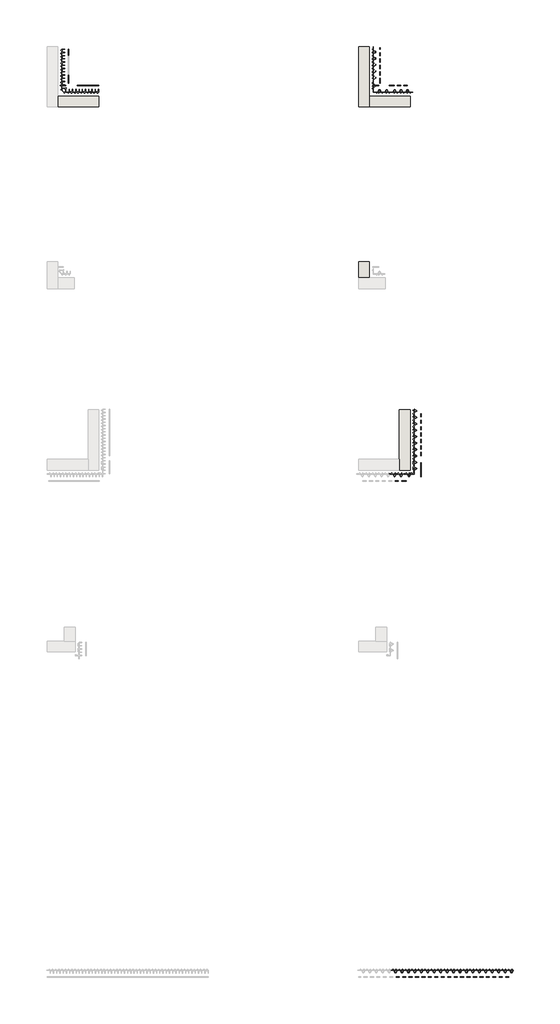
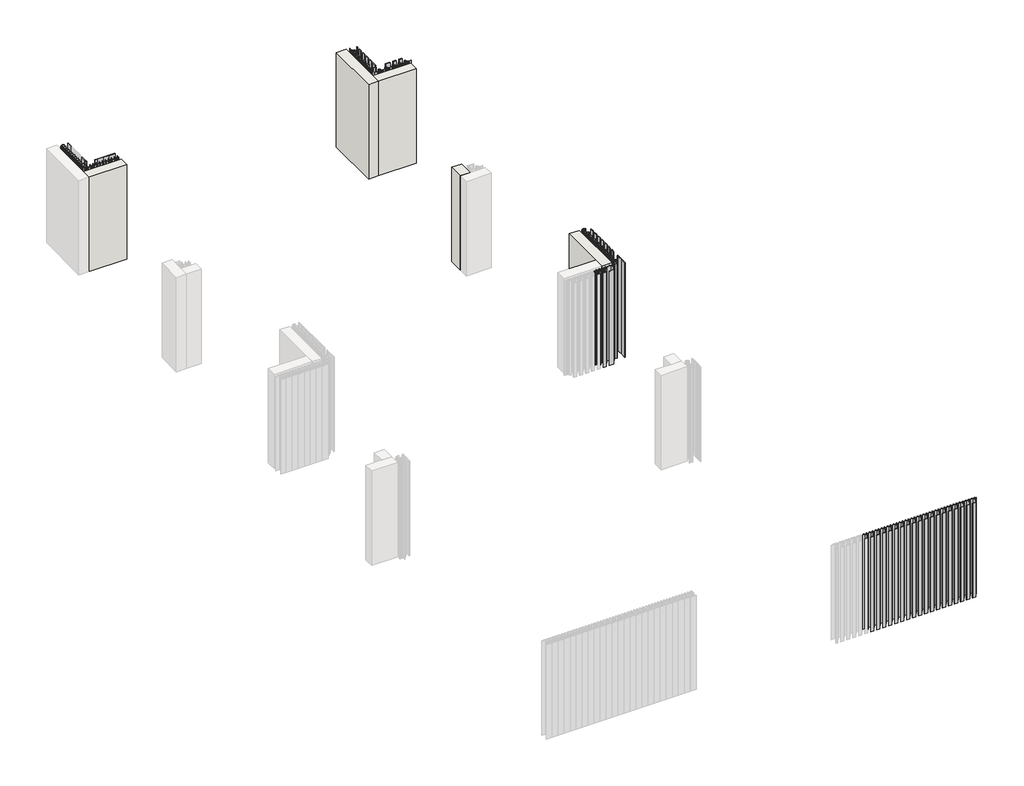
# One storey, part 5 of 5: 57 members, 50 plates, 5 walls.
"""IFC4 building model written with IfcOpenShell, lengths in millimetres."""

from ifc_helpers import new_model, si_unit, origin, origin_with_axes, place, context, project, spatial, polyline, outline, extrude, faceted_brep, transform, mapped, element, save
from components import rectangular_mullion_05be598c, rectangular_mullion_7167efe5, rectangular_mullion_7a3c55a6, rectangular_mullion_3bb5119e, rectangular_mullion_c17fce0e, rectangular_mullion_cac204a1, rectangular_mullion_4ed10c42, rectangular_mullion_8f83e6e3, rectangular_mullion_1797d992, rectangular_mullion_e1f336e5, rectangular_mullion_e9b3b9de, rectangular_mullion_e4d93e6c, rectangular_mullion_2a772050, rectangular_mullion_e46097ff, empty_system_panel_empty_1becab5c, empty_system_panel_empty_1ebb3388, empty_system_panel_empty_e98d4713, empty_system_panel_empty_5cad0f82, empty_system_panel_empty_5dcf6e88, empty_system_panel_empty_f535094f, empty_system_panel_empty_0988e1f0, empty_system_panel_empty_c051c962, empty_system_panel_empty_21c3a13d, empty_system_panel_empty_2f7d46bf, empty_system_panel_empty_e75d21e2, empty_system_panel_empty_5ee57205, empty_system_panel_empty_c6af10a3, empty_system_panel_empty_9846729f, empty_system_panel_empty_fabe9b0d, empty_system_panel_empty_092e5d7a, empty_system_panel_empty_2bdb7733, empty_system_panel_empty_8cb86d33, empty_system_panel_empty_02ad7564

model = new_model("IFC4")

# Units and contexts
model_context = context("Model", 3, world=origin())
ifc_project = project(units=[si_unit("LENGTHUNIT", "METRE", prefix="MILLI")], contexts=[model_context])

# Site, building, storey
site = spatial("IfcSite", under=ifc_project)
building = spatial("IfcBuilding", under=site)
storey = spatial("IfcBuildingStorey", under=building, Name="REN - Ground plan", Elevation=0.0)

# Members
placement = place(None, origin())
rectangular_mullion_shape = rectangular_mullion_05be598c(model_context)
element("IfcMember", 1, ObjectType="Rectangular Mullion : Renson_Linarte_LA-CO-05", at=placement, inside=storey, context=model_context, shape_type="MappedRepresentation", body=[
    mapped(rectangular_mullion_shape, transform((16144.5640554, 10228.1687046, 0.0), x_axis=(0.0, -1.0, 0.0), y_axis=(-1.0, 0.0, 0.0), z_axis=(0.0, 0.0, -1.0))),
])
rectangular_mullion_2_shape = rectangular_mullion_7167efe5(model_context)
element("IfcMember", 2, ObjectType="Rectangular Mullion : Renson_Linarte_LA-CO-02", at=placement, inside=storey, context=model_context, shape_type="MappedRepresentation", body=[
    mapped(rectangular_mullion_2_shape, transform((16144.5640554, 10251.3131464, 1000.0), x_axis=(0.0, 1.0, 0.0), y_axis=(-1.0, 0.0, 0.0), z_axis=(0.0, 0.0, 1.0))),
])
rectangular_mullion_3_shape = rectangular_mullion_7a3c55a6(model_context)
element("IfcMember", 3, ObjectType="Rectangular Mullion : Renson_Linarte_LA-CO-03", at=placement, inside=storey, context=model_context, shape_type="MappedRepresentation", body=[
    mapped(rectangular_mullion_3_shape, transform((16144.5640556, 10127.336759, 0.0), x_axis=(0.0, -1.0, 0.0), y_axis=(-1.0, 0.0, 0.0), z_axis=(0.0, 0.0, -1.0))),
])
rectangular_mullion_4_shape = rectangular_mullion_3bb5119e(model_context)
element("IfcMember", 4, ObjectType="Rectangular Mullion : Renson_Linarte_LA-CO-01", at=placement, inside=storey, context=model_context, shape_type="MappedRepresentation", body=[
    mapped(rectangular_mullion_4_shape, transform((16144.5640555, 10731.3006456, 1000.0), x_axis=(0.0, 1.0, 0.0), y_axis=(-1.0, 0.0, 0.0), z_axis=(0.0, 0.0, 1.0))),
])
element("IfcMember", 5, ObjectType="Rectangular Mullion : Renson_Linarte_LA-CO-01", at=placement, inside=storey, context=model_context, shape_type="MappedRepresentation", body=[
    mapped(rectangular_mullion_4_shape, transform((16149.6640552, 10162.9006947, 1000.0), x_axis=(1.0, 0.0, 0.0), y_axis=(0.0, 1.0, 0.0), z_axis=(0.0, 0.0, 1.0))),
])
element("IfcMember", 6, ObjectType="Rectangular Mullion : Renson_Linarte_LA-CO-01", at=placement, inside=storey, context=model_context, shape_type="MappedRepresentation", body=[
    mapped(rectangular_mullion_4_shape, transform((17104.5640555, 5541.5060851, 1000.0), x_axis=(1.0, 0.0, 0.0), y_axis=(0.0, 1.0, 0.0), z_axis=(0.0, 0.0, 1.0))),
])
element("IfcMember", 7, ObjectType="Rectangular Mullion : Renson_Linarte_LA-CO-01", at=placement, inside=storey, context=model_context, shape_type="MappedRepresentation", body=[
    mapped(rectangular_mullion_4_shape, transform((15909.5640556, 13647.7579432, 1000.0), x_axis=(-1.0, 0.0, 0.0), y_axis=(0.0, -1.0, 0.0), z_axis=(0.0, 0.0, 1.0))),
])
rectangular_mullion_5_shape = rectangular_mullion_c17fce0e(model_context)
element("IfcMember", 8, ObjectType="Rectangular Mullion : Renson_Linarte_LA-CO-04", at=placement, inside=storey, context=model_context, shape_type="MappedRepresentation", body=[
    mapped(rectangular_mullion_5_shape, transform((15789.5640556, 13647.7579432, 1000.0), x_axis=(-1.0, 0.0, 0.0), y_axis=(0.0, -1.0, 0.0), z_axis=(0.0, 0.0, 1.0))),
])
rectangular_mullion_6_shape = rectangular_mullion_cac204a1(model_context)
element("IfcMember", 9, ObjectType="Rectangular Mullion : Renson_Linarte_LA-CO-01", at=placement, inside=storey, context=model_context, shape_type="MappedRepresentation", body=[
    mapped(rectangular_mullion_6_shape, transform((15909.5640556, 13647.7579432, 0.0), x_axis=(1.0, 0.0, 0.0), y_axis=(0.0, -1.0, 0.0), z_axis=(0.0, 0.0, -1.0))),
])
rectangular_mullion_7_shape = rectangular_mullion_4ed10c42(model_context)
element("IfcMember", 10, ObjectType="Rectangular Mullion : Renson_Linarte_LA-CO-01", at=placement, inside=storey, context=model_context, shape_type="MappedRepresentation", body=[
    mapped(rectangular_mullion_7_shape, transform((15764.5640556, 13801.8577763, 0.0), x_axis=(0.0, 1.0, 0.0), y_axis=(1.0, 0.0, 0.0), z_axis=(0.0, 0.0, -1.0))),
])
element("IfcMember", 11, ObjectType="Rectangular Mullion : Renson_Linarte_LA-CO-01", at=placement, inside=storey, context=model_context, shape_type="MappedRepresentation", body=[
    mapped(rectangular_mullion_7_shape, transform((15764.5640556, 13861.8577763, 0.0), x_axis=(0.0, 1.0, 0.0), y_axis=(1.0, 0.0, 0.0), z_axis=(0.0, 0.0, -1.0))),
])
element("IfcMember", 12, ObjectType="Rectangular Mullion : Renson_Linarte_LA-CO-01", at=placement, inside=storey, context=model_context, shape_type="MappedRepresentation", body=[
    mapped(rectangular_mullion_7_shape, transform((15764.5640556, 13921.8577763, 0.0), x_axis=(0.0, 1.0, 0.0), y_axis=(1.0, 0.0, 0.0), z_axis=(0.0, 0.0, -1.0))),
])
element("IfcMember", 13, ObjectType="Rectangular Mullion : Renson_Linarte_LA-CO-01", at=placement, inside=storey, context=model_context, shape_type="MappedRepresentation", body=[
    mapped(rectangular_mullion_7_shape, transform((15764.5640556, 13981.8577763, 0.0), x_axis=(0.0, 1.0, 0.0), y_axis=(1.0, 0.0, 0.0), z_axis=(0.0, 0.0, -1.0))),
])
element("IfcMember", 14, ObjectType="Rectangular Mullion : Renson_Linarte_LA-CO-01", at=placement, inside=storey, context=model_context, shape_type="MappedRepresentation", body=[
    mapped(rectangular_mullion_7_shape, transform((15764.5640556, 14041.8577763, 0.0), x_axis=(0.0, 1.0, 0.0), y_axis=(1.0, 0.0, 0.0), z_axis=(0.0, 0.0, -1.0))),
])
rectangular_mullion_8_shape = rectangular_mullion_8f83e6e3(model_context)
element("IfcMember", 15, ObjectType="Rectangular Mullion : Renson_Linarte_LA-CO-01", at=placement, inside=storey, context=model_context, shape_type="MappedRepresentation", body=[
    mapped(rectangular_mullion_8_shape, transform((15764.5640556, 13727.7579432, 1000.0), x_axis=(0.0, -1.0, 0.0), y_axis=(1.0, 0.0, 0.0), z_axis=(0.0, 0.0, 1.0))),
])
rectangular_mullion_9_shape = rectangular_mullion_1797d992(model_context)
element("IfcMember", 16, ObjectType="Rectangular Mullion : Renson_Linarte_LA-E25-01", at=placement, inside=storey, context=model_context, shape_type="MappedRepresentation", body=[
    mapped(rectangular_mullion_9_shape, transform((12864.5640556, 14085.2579432, 1000.0), x_axis=(0.0, 1.0, 0.0), y_axis=(-1.0, 0.0, 0.0), z_axis=(0.0, 0.0, 1.0))),
])
rectangular_mullion_10_shape = rectangular_mullion_e1f336e5(model_context)
element("IfcMember", 17, ObjectType="Rectangular Mullion : Renson_Linarte_LA-E25-01", at=placement, inside=storey, context=model_context, shape_type="MappedRepresentation", body=[
    mapped(rectangular_mullion_10_shape, transform((13242.5640556, 13647.7579432, 1000.0), x_axis=(1.0, 0.0, 0.0), y_axis=(0.0, 1.0, 0.0), z_axis=(0.0, 0.0, 1.0))),
])
rectangular_mullion_11_shape = rectangular_mullion_e9b3b9de(model_context)
element("IfcMember", 18, ObjectType="Rectangular Mullion : Renson_Linarte_LA-E25-01", at=placement, inside=storey, context=model_context, shape_type="MappedRepresentation", body=[
    mapped(rectangular_mullion_11_shape, transform((12864.5640556, 14025.2579429, 0.0), x_axis=(0.0, -1.0, 0.0), y_axis=(-1.0, 0.0, 0.0), z_axis=(0.0, 0.0, -1.0))),
])
element("IfcMember", 19, ObjectType="Rectangular Mullion : Renson_Linarte_LA-E25-01", at=placement, inside=storey, context=model_context, shape_type="MappedRepresentation", body=[
    mapped(rectangular_mullion_11_shape, transform((12864.5640556, 13965.2579429, 0.0), x_axis=(0.0, -1.0, 0.0), y_axis=(-1.0, 0.0, 0.0), z_axis=(0.0, 0.0, -1.0))),
])
element("IfcMember", 20, ObjectType="Rectangular Mullion : Renson_Linarte_LA-E25-01", at=placement, inside=storey, context=model_context, shape_type="MappedRepresentation", body=[
    mapped(rectangular_mullion_11_shape, transform((12864.5640556, 13905.2579429, 0.0), x_axis=(0.0, -1.0, 0.0), y_axis=(-1.0, 0.0, 0.0), z_axis=(0.0, 0.0, -1.0))),
])
element("IfcMember", 21, ObjectType="Rectangular Mullion : Renson_Linarte_LA-E25-01", at=placement, inside=storey, context=model_context, shape_type="MappedRepresentation", body=[
    mapped(rectangular_mullion_11_shape, transform((12864.5640556, 13845.2579429, 0.0), x_axis=(0.0, -1.0, 0.0), y_axis=(-1.0, 0.0, 0.0), z_axis=(0.0, 0.0, -1.0))),
])
element("IfcMember", 22, ObjectType="Rectangular Mullion : Renson_Linarte_LA-E25-01", at=placement, inside=storey, context=model_context, shape_type="MappedRepresentation", body=[
    mapped(rectangular_mullion_11_shape, transform((12864.5640556, 13785.2579429, 0.0), x_axis=(0.0, -1.0, 0.0), y_axis=(-1.0, 0.0, 0.0), z_axis=(0.0, 0.0, -1.0))),
])
rectangular_mullion_12_shape = rectangular_mullion_e4d93e6c(model_context)
element("IfcMember", 23, ObjectType="Rectangular Mullion : Renson_Linarte_LA-E25-01", at=placement, inside=storey, context=model_context, shape_type="MappedRepresentation", body=[
    mapped(rectangular_mullion_12_shape, transform((13062.5640553, 13647.7579432, 0.0), x_axis=(-1.0, 0.0, 0.0), y_axis=(0.0, 1.0, 0.0), z_axis=(0.0, 0.0, -1.0))),
])
element("IfcMember", 24, ObjectType="Rectangular Mullion : Renson_Linarte_LA-E25-01", at=placement, inside=storey, context=model_context, shape_type="MappedRepresentation", body=[
    mapped(rectangular_mullion_12_shape, transform((13122.5640553, 13647.7579432, 0.0), x_axis=(-1.0, 0.0, 0.0), y_axis=(0.0, 1.0, 0.0), z_axis=(0.0, 0.0, -1.0))),
])
element("IfcMember", 25, ObjectType="Rectangular Mullion : Renson_Linarte_LA-E25-01", at=placement, inside=storey, context=model_context, shape_type="MappedRepresentation", body=[
    mapped(rectangular_mullion_12_shape, transform((13182.5640553, 13647.7579432, 0.0), x_axis=(-1.0, 0.0, 0.0), y_axis=(0.0, 1.0, 0.0), z_axis=(0.0, 0.0, -1.0))),
])
rectangular_mullion_13_shape = rectangular_mullion_2a772050(model_context)
element("IfcMember", 26, ObjectType="Rectangular Mullion : Renson_Linarte_LA-A04", at=placement, inside=storey, context=model_context, shape_type="MappedRepresentation", body=[
    mapped(rectangular_mullion_13_shape, transform((12886.2604814, 13647.7579432, 1000.0), x_axis=(-1.0, 0.0, 0.0), y_axis=(0.0, -1.0, 0.0), z_axis=(0.0, 0.0, 1.0))),
])
element("IfcMember", 27, ObjectType="Rectangular Mullion : Renson_Linarte_LA-E25-01_", at=placement, inside=storey, context=model_context, shape_type="MappedRepresentation", body=[
    mapped(rectangular_mullion_9_shape, transform((13001.2604814, 13647.7579432, 0.0), x_axis=(1.0, 0.0, 0.0), y_axis=(0.0, -1.0, 0.0), z_axis=(0.0, 0.0, -1.0))),
])
rectangular_mullion_14_shape = rectangular_mullion_e46097ff(model_context)
element("IfcMember", 28, ObjectType="Rectangular Mullion : Renson_Linarte_LA-CO-01", at=placement, inside=storey, context=model_context, shape_type="MappedRepresentation", body=[
    mapped(rectangular_mullion_14_shape, transform((16144.5640555, 10671.3006453, 0.0), x_axis=(0.0, -1.0, 0.0), y_axis=(-1.0, 0.0, 0.0), z_axis=(0.0, 0.0, -1.0))),
])
element("IfcMember", 29, ObjectType="Rectangular Mullion : Renson_Linarte_LA-CO-01", at=placement, inside=storey, context=model_context, shape_type="MappedRepresentation", body=[
    mapped(rectangular_mullion_14_shape, transform((16144.5640555, 10611.3006453, 0.0), x_axis=(0.0, -1.0, 0.0), y_axis=(-1.0, 0.0, 0.0), z_axis=(0.0, 0.0, -1.0))),
])
element("IfcMember", 30, ObjectType="Rectangular Mullion : Renson_Linarte_LA-CO-01", at=placement, inside=storey, context=model_context, shape_type="MappedRepresentation", body=[
    mapped(rectangular_mullion_14_shape, transform((16144.5640555, 10551.3006453, 0.0), x_axis=(0.0, -1.0, 0.0), y_axis=(-1.0, 0.0, 0.0), z_axis=(0.0, 0.0, -1.0))),
])
element("IfcMember", 31, ObjectType="Rectangular Mullion : Renson_Linarte_LA-CO-01", at=placement, inside=storey, context=model_context, shape_type="MappedRepresentation", body=[
    mapped(rectangular_mullion_14_shape, transform((16144.5640555, 10491.3006453, 0.0), x_axis=(0.0, -1.0, 0.0), y_axis=(-1.0, 0.0, 0.0), z_axis=(0.0, 0.0, -1.0))),
])
element("IfcMember", 32, ObjectType="Rectangular Mullion : Renson_Linarte_LA-CO-01", at=placement, inside=storey, context=model_context, shape_type="MappedRepresentation", body=[
    mapped(rectangular_mullion_14_shape, transform((16144.5640555, 10431.3006453, 0.0), x_axis=(0.0, -1.0, 0.0), y_axis=(-1.0, 0.0, 0.0), z_axis=(0.0, 0.0, -1.0))),
])
element("IfcMember", 33, ObjectType="Rectangular Mullion : Renson_Linarte_LA-CO-01", at=placement, inside=storey, context=model_context, shape_type="MappedRepresentation", body=[
    mapped(rectangular_mullion_14_shape, transform((16075.5642221, 10162.9006947, 0.0), x_axis=(-1.0, 0.0, 0.0), y_axis=(0.0, 1.0, 0.0), z_axis=(0.0, 0.0, -1.0))),
])
element("IfcMember", 34, ObjectType="Rectangular Mullion : Renson_Linarte_LA-CO-01", at=placement, inside=storey, context=model_context, shape_type="MappedRepresentation", body=[
    mapped(rectangular_mullion_14_shape, transform((16015.5642221, 10162.9006947, 0.0), x_axis=(-1.0, 0.0, 0.0), y_axis=(0.0, 1.0, 0.0), z_axis=(0.0, 0.0, -1.0))),
])
element("IfcMember", 35, ObjectType="Rectangular Mullion : Renson_Linarte_LA-CO-01", at=placement, inside=storey, context=model_context, shape_type="MappedRepresentation", body=[
    mapped(rectangular_mullion_14_shape, transform((16984.5640552, 5541.5060851, 0.0), x_axis=(-1.0, 0.0, 0.0), y_axis=(0.0, 1.0, 0.0), z_axis=(0.0, 0.0, -1.0))),
])
element("IfcMember", 36, ObjectType="Rectangular Mullion : Renson_Linarte_LA-CO-01", at=placement, inside=storey, context=model_context, shape_type="MappedRepresentation", body=[
    mapped(rectangular_mullion_14_shape, transform((16924.5640552, 5541.5060851, 0.0), x_axis=(-1.0, 0.0, 0.0), y_axis=(0.0, 1.0, 0.0), z_axis=(0.0, 0.0, -1.0))),
])
element("IfcMember", 37, ObjectType="Rectangular Mullion : Renson_Linarte_LA-CO-01", at=placement, inside=storey, context=model_context, shape_type="MappedRepresentation", body=[
    mapped(rectangular_mullion_14_shape, transform((16864.5640552, 5541.5060851, 0.0), x_axis=(-1.0, 0.0, 0.0), y_axis=(0.0, 1.0, 0.0), z_axis=(0.0, 0.0, -1.0))),
])
element("IfcMember", 38, ObjectType="Rectangular Mullion : Renson_Linarte_LA-CO-01", at=placement, inside=storey, context=model_context, shape_type="MappedRepresentation", body=[
    mapped(rectangular_mullion_14_shape, transform((16804.5640552, 5541.5060851, 0.0), x_axis=(-1.0, 0.0, 0.0), y_axis=(0.0, 1.0, 0.0), z_axis=(0.0, 0.0, -1.0))),
])
element("IfcMember", 39, ObjectType="Rectangular Mullion : Renson_Linarte_LA-CO-01", at=placement, inside=storey, context=model_context, shape_type="MappedRepresentation", body=[
    mapped(rectangular_mullion_14_shape, transform((16744.5640552, 5541.5060851, 0.0), x_axis=(-1.0, 0.0, 0.0), y_axis=(0.0, 1.0, 0.0), z_axis=(0.0, 0.0, -1.0))),
])
element("IfcMember", 40, ObjectType="Rectangular Mullion : Renson_Linarte_LA-CO-01", at=placement, inside=storey, context=model_context, shape_type="MappedRepresentation", body=[
    mapped(rectangular_mullion_14_shape, transform((16684.5640552, 5541.5060851, 0.0), x_axis=(-1.0, 0.0, 0.0), y_axis=(0.0, 1.0, 0.0), z_axis=(0.0, 0.0, -1.0))),
])
element("IfcMember", 41, ObjectType="Rectangular Mullion : Renson_Linarte_LA-CO-01", at=placement, inside=storey, context=model_context, shape_type="MappedRepresentation", body=[
    mapped(rectangular_mullion_14_shape, transform((16624.5640552, 5541.5060851, 0.0), x_axis=(-1.0, 0.0, 0.0), y_axis=(0.0, 1.0, 0.0), z_axis=(0.0, 0.0, -1.0))),
])
element("IfcMember", 42, ObjectType="Rectangular Mullion : Renson_Linarte_LA-CO-01", at=placement, inside=storey, context=model_context, shape_type="MappedRepresentation", body=[
    mapped(rectangular_mullion_14_shape, transform((16564.5640552, 5541.5060851, 0.0), x_axis=(-1.0, 0.0, 0.0), y_axis=(0.0, 1.0, 0.0), z_axis=(0.0, 0.0, -1.0))),
])
element("IfcMember", 43, ObjectType="Rectangular Mullion : Renson_Linarte_LA-CO-01", at=placement, inside=storey, context=model_context, shape_type="MappedRepresentation", body=[
    mapped(rectangular_mullion_14_shape, transform((16504.5640552, 5541.5060851, 0.0), x_axis=(-1.0, 0.0, 0.0), y_axis=(0.0, 1.0, 0.0), z_axis=(0.0, 0.0, -1.0))),
])
element("IfcMember", 44, ObjectType="Rectangular Mullion : Renson_Linarte_LA-CO-01", at=placement, inside=storey, context=model_context, shape_type="MappedRepresentation", body=[
    mapped(rectangular_mullion_14_shape, transform((16444.5640552, 5541.5060851, 0.0), x_axis=(-1.0, 0.0, 0.0), y_axis=(0.0, 1.0, 0.0), z_axis=(0.0, 0.0, -1.0))),
])
element("IfcMember", 45, ObjectType="Rectangular Mullion : Renson_Linarte_LA-CO-01", at=placement, inside=storey, context=model_context, shape_type="MappedRepresentation", body=[
    mapped(rectangular_mullion_14_shape, transform((16384.5640552, 5541.5060851, 0.0), x_axis=(-1.0, 0.0, 0.0), y_axis=(0.0, 1.0, 0.0), z_axis=(0.0, 0.0, -1.0))),
])
element("IfcMember", 46, ObjectType="Rectangular Mullion : Renson_Linarte_LA-CO-01", at=placement, inside=storey, context=model_context, shape_type="MappedRepresentation", body=[
    mapped(rectangular_mullion_14_shape, transform((16324.5640552, 5541.5060851, 0.0), x_axis=(-1.0, 0.0, 0.0), y_axis=(0.0, 1.0, 0.0), z_axis=(0.0, 0.0, -1.0))),
])
element("IfcMember", 47, ObjectType="Rectangular Mullion : Renson_Linarte_LA-CO-01", at=placement, inside=storey, context=model_context, shape_type="MappedRepresentation", body=[
    mapped(rectangular_mullion_14_shape, transform((16264.5640552, 5541.5060851, 0.0), x_axis=(-1.0, 0.0, 0.0), y_axis=(0.0, 1.0, 0.0), z_axis=(0.0, 0.0, -1.0))),
])
element("IfcMember", 48, ObjectType="Rectangular Mullion : Renson_Linarte_LA-CO-01", at=placement, inside=storey, context=model_context, shape_type="MappedRepresentation", body=[
    mapped(rectangular_mullion_14_shape, transform((16204.5640552, 5541.5060851, 0.0), x_axis=(-1.0, 0.0, 0.0), y_axis=(0.0, 1.0, 0.0), z_axis=(0.0, 0.0, -1.0))),
])
element("IfcMember", 49, ObjectType="Rectangular Mullion : Renson_Linarte_LA-CO-01", at=placement, inside=storey, context=model_context, shape_type="MappedRepresentation", body=[
    mapped(rectangular_mullion_14_shape, transform((16144.5640552, 5541.5060851, 0.0), x_axis=(-1.0, 0.0, 0.0), y_axis=(0.0, 1.0, 0.0), z_axis=(0.0, 0.0, -1.0))),
])
element("IfcMember", 50, ObjectType="Rectangular Mullion : Renson_Linarte_LA-CO-01", at=placement, inside=storey, context=model_context, shape_type="MappedRepresentation", body=[
    mapped(rectangular_mullion_14_shape, transform((16084.5640552, 5541.5060851, 0.0), x_axis=(-1.0, 0.0, 0.0), y_axis=(0.0, 1.0, 0.0), z_axis=(0.0, 0.0, -1.0))),
])
element("IfcMember", 51, ObjectType="Rectangular Mullion : Renson_Linarte_LA-CO-01", at=placement, inside=storey, context=model_context, shape_type="MappedRepresentation", body=[
    mapped(rectangular_mullion_14_shape, transform((16024.5640552, 5541.5060851, 0.0), x_axis=(-1.0, 0.0, 0.0), y_axis=(0.0, 1.0, 0.0), z_axis=(0.0, 0.0, -1.0))),
])
element("IfcMember", 52, ObjectType="Rectangular Mullion : Renson_Linarte_LA-CO-01", at=placement, inside=storey, context=model_context, shape_type="MappedRepresentation", body=[
    mapped(rectangular_mullion_14_shape, transform((16144.5640555, 10371.3006453, 0.0), x_axis=(0.0, -1.0, 0.0), y_axis=(-1.0, 0.0, 0.0), z_axis=(0.0, 0.0, -1.0))),
])
element("IfcMember", 53, ObjectType="Rectangular Mullion : Renson_Linarte_LA-CO-01", at=placement, inside=storey, context=model_context, shape_type="MappedRepresentation", body=[
    mapped(rectangular_mullion_14_shape, transform((17044.5640552, 5541.5060851, 0.0), x_axis=(-1.0, 0.0, 0.0), y_axis=(0.0, 1.0, 0.0), z_axis=(0.0, 0.0, -1.0))),
])
element("IfcMember", 54, ObjectType="Rectangular Mullion : Renson_Linarte_LA-CO-01", at=placement, inside=storey, context=model_context, shape_type="MappedRepresentation", body=[
    mapped(rectangular_mullion_14_shape, transform((15983.6638886, 13647.7579432, 0.0), x_axis=(1.0, 0.0, 0.0), y_axis=(0.0, -1.0, 0.0), z_axis=(0.0, 0.0, -1.0))),
])
element("IfcMember", 55, ObjectType="Rectangular Mullion : Renson_Linarte_LA-CO-01", at=placement, inside=storey, context=model_context, shape_type="MappedRepresentation", body=[
    mapped(rectangular_mullion_14_shape, transform((16043.6638886, 13647.7579432, 0.0), x_axis=(1.0, 0.0, 0.0), y_axis=(0.0, -1.0, 0.0), z_axis=(0.0, 0.0, -1.0))),
])
element("IfcMember", 56, ObjectType="Rectangular Mullion : Renson_Linarte_LA-CO-01", at=placement, inside=storey, context=model_context, shape_type="MappedRepresentation", body=[
    mapped(rectangular_mullion_14_shape, transform((16103.6638886, 13647.7579432, 0.0), x_axis=(1.0, 0.0, 0.0), y_axis=(0.0, -1.0, 0.0), z_axis=(0.0, 0.0, -1.0))),
])
element("IfcMember", 57, ObjectType="Rectangular Mullion : Renson_Linarte_LA-CO-01", at=placement, inside=storey, context=model_context, shape_type="MappedRepresentation", body=[
    mapped(rectangular_mullion_14_shape, transform((16144.5640555, 10311.3006453, 0.0), x_axis=(0.0, -1.0, 0.0), y_axis=(-1.0, 0.0, 0.0), z_axis=(0.0, 0.0, -1.0))),
])

# Plates
empty_system_panel_empty_shape = empty_system_panel_empty_1becab5c(model_context)
element("IfcPlate", 58, ObjectType="Empty System Panel : Empty", at=placement, inside=storey, context=model_context, shape_type="MappedRepresentation", body=[
    mapped(empty_system_panel_empty_shape, transform((16144.5640554, 10229.4027343, 0.0), x_axis=(0.0, -1.0, 0.0), y_axis=(1.0, 0.0, 0.0), z_axis=(0.0, 0.0, 1.0))),
])
empty_system_panel_empty_2_shape = empty_system_panel_empty_1ebb3388(model_context)
element("IfcPlate", 59, ObjectType="Empty System Panel : Empty", at=placement, inside=storey, context=model_context, shape_type="MappedRepresentation", body=[
    mapped(empty_system_panel_empty_2_shape, transform((16144.5640554, 10196.3879796, 0.0), x_axis=(0.0, -1.0, 0.0), y_axis=(1.0, 0.0, 0.0), z_axis=(0.0, 0.0, 1.0))),
])
empty_system_panel_empty_3_shape = empty_system_panel_empty_e98d4713(model_context)
element("IfcPlate", 60, ObjectType="Empty System Panel : Empty", at=placement, inside=storey, context=model_context, shape_type="MappedRepresentation", body=[
    mapped(empty_system_panel_empty_3_shape, transform((16144.5640554, 10132.9602005, 0.0), x_axis=(0.0, -1.0, 0.0), y_axis=(1.0, 0.0, 0.0), z_axis=(0.0, 0.0, 1.0))),
])
empty_system_panel_empty_4_shape = empty_system_panel_empty_5cad0f82(model_context)
element("IfcPlate", 61, ObjectType="Empty System Panel : Empty", at=placement, inside=storey, context=model_context, shape_type="MappedRepresentation", body=[
    mapped(empty_system_panel_empty_4_shape, transform((16144.5640556, 10179.9006946, 0.0), x_axis=(0.0, -1.0, 0.0), y_axis=(1.0, 0.0, 0.0), z_axis=(0.0, 0.0, 1.0))),
])
empty_system_panel_empty_5_shape = empty_system_panel_empty_5dcf6e88(model_context)
element("IfcPlate", 62, ObjectType="Empty System Panel : Empty", at=placement, inside=storey, context=model_context, shape_type="MappedRepresentation", body=[
    mapped(empty_system_panel_empty_5_shape, transform((15821.8433367, 13647.7579432, 0.0), x_axis=(1.0, 0.0, 0.0), y_axis=(0.0, 1.0, 0.0), z_axis=(0.0, 0.0, 1.0))),
])
empty_system_panel_empty_6_shape = empty_system_panel_empty_f535094f(model_context)
element("IfcPlate", 63, ObjectType="Empty System Panel : Empty", at=placement, inside=storey, context=model_context, shape_type="MappedRepresentation", body=[
    mapped(empty_system_panel_empty_6_shape, transform((15851.384756, 13647.7579432, 0.0), x_axis=(1.0, 0.0, 0.0), y_axis=(0.0, 1.0, 0.0), z_axis=(0.0, 0.0, 1.0))),
])
empty_system_panel_empty_7_shape = empty_system_panel_empty_0988e1f0(model_context)
element("IfcPlate", 64, ObjectType="Empty System Panel : Empty", at=placement, inside=storey, context=model_context, shape_type="MappedRepresentation", body=[
    mapped(empty_system_panel_empty_7_shape, transform((13092.5640553, 13647.7579432, 0.0), x_axis=(-1.0, 0.0, 0.0), y_axis=(0.0, -1.0, 0.0), z_axis=(0.0, 0.0, 1.0))),
])
element("IfcPlate", 65, ObjectType="Empty System Panel : Empty", at=placement, inside=storey, context=model_context, shape_type="MappedRepresentation", body=[
    mapped(empty_system_panel_empty_7_shape, transform((13152.5640553, 13647.7579432, 0.0), x_axis=(-1.0, 0.0, 0.0), y_axis=(0.0, -1.0, 0.0), z_axis=(0.0, 0.0, 1.0))),
])
empty_system_panel_empty_8_shape = empty_system_panel_empty_c051c962(model_context)
element("IfcPlate", 66, ObjectType="Empty System Panel : Empty", at=placement, inside=storey, context=model_context, shape_type="MappedRepresentation", body=[
    mapped(empty_system_panel_empty_8_shape, transform((13212.5640554, 13647.7579432, 0.0), x_axis=(-1.0, 0.0, 0.0), y_axis=(0.0, -1.0, 0.0), z_axis=(0.0, 0.0, 1.0))),
])
empty_system_panel_empty_9_shape = empty_system_panel_empty_21c3a13d(model_context)
element("IfcPlate", 67, ObjectType="Empty System Panel : Empty", at=placement, inside=storey, context=model_context, shape_type="MappedRepresentation", body=[
    mapped(empty_system_panel_empty_9_shape, transform((16086.2139714, 10162.9006947, 0.0), x_axis=(-1.0, 0.0, 0.0), y_axis=(0.0, -1.0, 0.0), z_axis=(0.0, 0.0, 1.0))),
])
element("IfcPlate", 68, ObjectType="Empty System Panel : Empty", at=placement, inside=storey, context=model_context, shape_type="MappedRepresentation", body=[
    mapped(empty_system_panel_empty_9_shape, transform((15973.0141394, 13647.7579432, 0.0), x_axis=(1.0, 0.0, 0.0), y_axis=(0.0, 1.0, 0.0), z_axis=(0.0, 0.0, 1.0))),
])
empty_system_panel_empty_10_shape = empty_system_panel_empty_2f7d46bf(model_context)
element("IfcPlate", 69, ObjectType="Empty System Panel : Empty", at=placement, inside=storey, context=model_context, shape_type="MappedRepresentation", body=[
    mapped(empty_system_panel_empty_10_shape, transform((15764.5640556, 13791.208027, 0.0), x_axis=(0.0, 1.0, 0.0), y_axis=(-1.0, 0.0, 0.0), z_axis=(0.0, 0.0, 1.0))),
])
empty_system_panel_empty_11_shape = empty_system_panel_empty_e75d21e2(model_context)
element("IfcPlate", 70, ObjectType="Empty System Panel : Empty", at=placement, inside=storey, context=model_context, shape_type="MappedRepresentation", body=[
    mapped(empty_system_panel_empty_11_shape, transform((15764.5640556, 14090.5079434, 0.0), x_axis=(0.0, 1.0, 0.0), y_axis=(-1.0, 0.0, 0.0), z_axis=(0.0, 0.0, 1.0))),
])
empty_system_panel_empty_12_shape = empty_system_panel_empty_5ee57205(model_context)
element("IfcPlate", 71, ObjectType="Empty System Panel : Empty", at=placement, inside=storey, context=model_context, shape_type="MappedRepresentation", body=[
    mapped(empty_system_panel_empty_12_shape, transform((12864.5640556, 13815.2579429, 0.0), x_axis=(0.0, -1.0, 0.0), y_axis=(1.0, 0.0, 0.0), z_axis=(0.0, 0.0, 1.0))),
])
empty_system_panel_empty_13_shape = empty_system_panel_empty_c6af10a3(model_context)
element("IfcPlate", 72, ObjectType="Empty System Panel : Empty", at=placement, inside=storey, context=model_context, shape_type="MappedRepresentation", body=[
    mapped(empty_system_panel_empty_13_shape, transform((12864.5640556, 14055.2579431, 0.0), x_axis=(0.0, -1.0, 0.0), y_axis=(1.0, 0.0, 0.0), z_axis=(0.0, 0.0, 1.0))),
])
empty_system_panel_empty_14_shape = empty_system_panel_empty_9846729f(model_context)
element("IfcPlate", 73, ObjectType="Empty System Panel : Empty", at=placement, inside=storey, context=model_context, shape_type="MappedRepresentation", body=[
    mapped(empty_system_panel_empty_14_shape, transform((12864.5640556, 13775.2579431, 0.0), x_axis=(0.0, -1.0, 0.0), y_axis=(1.0, 0.0, 0.0), z_axis=(0.0, 0.0, 1.0))),
])
empty_system_panel_empty_15_shape = empty_system_panel_empty_fabe9b0d(model_context)
element("IfcPlate", 74, ObjectType="Empty System Panel : Empty", at=placement, inside=storey, context=model_context, shape_type="MappedRepresentation", body=[
    mapped(empty_system_panel_empty_15_shape, transform((12910.4604814, 13647.7579432, 0.0), x_axis=(1.0, 0.0, 0.0), y_axis=(0.0, 1.0, 0.0), z_axis=(0.0, 0.0, 1.0))),
])
empty_system_panel_empty_16_shape = empty_system_panel_empty_092e5d7a(model_context)
element("IfcPlate", 75, ObjectType="Empty System Panel : Empty", at=placement, inside=storey, context=model_context, shape_type="MappedRepresentation", body=[
    mapped(empty_system_panel_empty_16_shape, transform((13052.5640554, 13647.7579432, 0.0), x_axis=(-1.0, 0.0, 0.0), y_axis=(0.0, -1.0, 0.0), z_axis=(0.0, 0.0, 1.0))),
])
empty_system_panel_empty_17_shape = empty_system_panel_empty_2bdb7733(model_context)
element("IfcPlate", 76, ObjectType="Empty System Panel : Empty", at=placement, inside=storey, context=model_context, shape_type="MappedRepresentation", body=[
    mapped(empty_system_panel_empty_17_shape, transform((15764.5640556, 13858.2579435, 0.0), x_axis=(0.0, 1.0, 0.0), y_axis=(-1.0, 0.0, 0.0), z_axis=(0.0, 0.0, 1.0))),
])
element("IfcPlate", 77, ObjectType="Empty System Panel : Empty", at=placement, inside=storey, context=model_context, shape_type="MappedRepresentation", body=[
    mapped(empty_system_panel_empty_17_shape, transform((15764.5640556, 13918.2579435, 0.0), x_axis=(0.0, 1.0, 0.0), y_axis=(-1.0, 0.0, 0.0), z_axis=(0.0, 0.0, 1.0))),
])
element("IfcPlate", 78, ObjectType="Empty System Panel : Empty", at=placement, inside=storey, context=model_context, shape_type="MappedRepresentation", body=[
    mapped(empty_system_panel_empty_17_shape, transform((15764.5640556, 13978.2579435, 0.0), x_axis=(0.0, 1.0, 0.0), y_axis=(-1.0, 0.0, 0.0), z_axis=(0.0, 0.0, 1.0))),
])
element("IfcPlate", 79, ObjectType="Empty System Panel : Empty", at=placement, inside=storey, context=model_context, shape_type="MappedRepresentation", body=[
    mapped(empty_system_panel_empty_17_shape, transform((15764.5640556, 14038.2579435, 0.0), x_axis=(0.0, 1.0, 0.0), y_axis=(-1.0, 0.0, 0.0), z_axis=(0.0, 0.0, 1.0))),
])
empty_system_panel_empty_18_shape = empty_system_panel_empty_8cb86d33(model_context)
element("IfcPlate", 80, ObjectType="Empty System Panel : Empty", at=placement, inside=storey, context=model_context, shape_type="MappedRepresentation", body=[
    mapped(empty_system_panel_empty_18_shape, transform((16144.5640555, 10674.9004782, 0.0), x_axis=(0.0, -1.0, 0.0), y_axis=(1.0, 0.0, 0.0), z_axis=(0.0, 0.0, 1.0))),
])
element("IfcPlate", 81, ObjectType="Empty System Panel : Empty", at=placement, inside=storey, context=model_context, shape_type="MappedRepresentation", body=[
    mapped(empty_system_panel_empty_18_shape, transform((17048.1638881, 5541.5060851, 0.0), x_axis=(-1.0, 0.0, 0.0), y_axis=(0.0, -1.0, 0.0), z_axis=(0.0, 0.0, 1.0))),
])
empty_system_panel_empty_19_shape = empty_system_panel_empty_02ad7564(model_context)
element("IfcPlate", 82, ObjectType="Empty System Panel : Empty", at=placement, inside=storey, context=model_context, shape_type="MappedRepresentation", body=[
    mapped(empty_system_panel_empty_19_shape, transform((16144.5640555, 10614.900478, 0.0), x_axis=(0.0, -1.0, 0.0), y_axis=(1.0, 0.0, 0.0), z_axis=(0.0, 0.0, 1.0))),
])
element("IfcPlate", 83, ObjectType="Empty System Panel : Empty", at=placement, inside=storey, context=model_context, shape_type="MappedRepresentation", body=[
    mapped(empty_system_panel_empty_19_shape, transform((16144.5640555, 10554.900478, 0.0), x_axis=(0.0, -1.0, 0.0), y_axis=(1.0, 0.0, 0.0), z_axis=(0.0, 0.0, 1.0))),
])
element("IfcPlate", 84, ObjectType="Empty System Panel : Empty", at=placement, inside=storey, context=model_context, shape_type="MappedRepresentation", body=[
    mapped(empty_system_panel_empty_19_shape, transform((16144.5640555, 10494.900478, 0.0), x_axis=(0.0, -1.0, 0.0), y_axis=(1.0, 0.0, 0.0), z_axis=(0.0, 0.0, 1.0))),
])
element("IfcPlate", 85, ObjectType="Empty System Panel : Empty", at=placement, inside=storey, context=model_context, shape_type="MappedRepresentation", body=[
    mapped(empty_system_panel_empty_19_shape, transform((16144.5640555, 10434.900478, 0.0), x_axis=(0.0, -1.0, 0.0), y_axis=(1.0, 0.0, 0.0), z_axis=(0.0, 0.0, 1.0))),
])
element("IfcPlate", 86, ObjectType="Empty System Panel : Empty", at=placement, inside=storey, context=model_context, shape_type="MappedRepresentation", body=[
    mapped(empty_system_panel_empty_19_shape, transform((16144.5640555, 10374.900478, 0.0), x_axis=(0.0, -1.0, 0.0), y_axis=(1.0, 0.0, 0.0), z_axis=(0.0, 0.0, 1.0))),
])
element("IfcPlate", 87, ObjectType="Empty System Panel : Empty", at=placement, inside=storey, context=model_context, shape_type="MappedRepresentation", body=[
    mapped(empty_system_panel_empty_19_shape, transform((16019.1640549, 10162.9006947, 0.0), x_axis=(-1.0, 0.0, 0.0), y_axis=(0.0, -1.0, 0.0), z_axis=(0.0, 0.0, 1.0))),
])
element("IfcPlate", 88, ObjectType="Empty System Panel : Empty", at=placement, inside=storey, context=model_context, shape_type="MappedRepresentation", body=[
    mapped(empty_system_panel_empty_19_shape, transform((16928.1638879, 5541.5060851, 0.0), x_axis=(-1.0, 0.0, 0.0), y_axis=(0.0, -1.0, 0.0), z_axis=(0.0, 0.0, 1.0))),
])
element("IfcPlate", 89, ObjectType="Empty System Panel : Empty", at=placement, inside=storey, context=model_context, shape_type="MappedRepresentation", body=[
    mapped(empty_system_panel_empty_19_shape, transform((16868.1638879, 5541.5060851, 0.0), x_axis=(-1.0, 0.0, 0.0), y_axis=(0.0, -1.0, 0.0), z_axis=(0.0, 0.0, 1.0))),
])
element("IfcPlate", 90, ObjectType="Empty System Panel : Empty", at=placement, inside=storey, context=model_context, shape_type="MappedRepresentation", body=[
    mapped(empty_system_panel_empty_19_shape, transform((16808.1638879, 5541.5060851, 0.0), x_axis=(-1.0, 0.0, 0.0), y_axis=(0.0, -1.0, 0.0), z_axis=(0.0, 0.0, 1.0))),
])
element("IfcPlate", 91, ObjectType="Empty System Panel : Empty", at=placement, inside=storey, context=model_context, shape_type="MappedRepresentation", body=[
    mapped(empty_system_panel_empty_19_shape, transform((16748.1638879, 5541.5060851, 0.0), x_axis=(-1.0, 0.0, 0.0), y_axis=(0.0, -1.0, 0.0), z_axis=(0.0, 0.0, 1.0))),
])
element("IfcPlate", 92, ObjectType="Empty System Panel : Empty", at=placement, inside=storey, context=model_context, shape_type="MappedRepresentation", body=[
    mapped(empty_system_panel_empty_19_shape, transform((16688.1638879, 5541.5060851, 0.0), x_axis=(-1.0, 0.0, 0.0), y_axis=(0.0, -1.0, 0.0), z_axis=(0.0, 0.0, 1.0))),
])
element("IfcPlate", 93, ObjectType="Empty System Panel : Empty", at=placement, inside=storey, context=model_context, shape_type="MappedRepresentation", body=[
    mapped(empty_system_panel_empty_19_shape, transform((16628.1638879, 5541.5060851, 0.0), x_axis=(-1.0, 0.0, 0.0), y_axis=(0.0, -1.0, 0.0), z_axis=(0.0, 0.0, 1.0))),
])
element("IfcPlate", 94, ObjectType="Empty System Panel : Empty", at=placement, inside=storey, context=model_context, shape_type="MappedRepresentation", body=[
    mapped(empty_system_panel_empty_19_shape, transform((16568.1638879, 5541.5060851, 0.0), x_axis=(-1.0, 0.0, 0.0), y_axis=(0.0, -1.0, 0.0), z_axis=(0.0, 0.0, 1.0))),
])
element("IfcPlate", 95, ObjectType="Empty System Panel : Empty", at=placement, inside=storey, context=model_context, shape_type="MappedRepresentation", body=[
    mapped(empty_system_panel_empty_19_shape, transform((16508.1638879, 5541.5060851, 0.0), x_axis=(-1.0, 0.0, 0.0), y_axis=(0.0, -1.0, 0.0), z_axis=(0.0, 0.0, 1.0))),
])
element("IfcPlate", 96, ObjectType="Empty System Panel : Empty", at=placement, inside=storey, context=model_context, shape_type="MappedRepresentation", body=[
    mapped(empty_system_panel_empty_19_shape, transform((16448.1638879, 5541.5060851, 0.0), x_axis=(-1.0, 0.0, 0.0), y_axis=(0.0, -1.0, 0.0), z_axis=(0.0, 0.0, 1.0))),
])
element("IfcPlate", 97, ObjectType="Empty System Panel : Empty", at=placement, inside=storey, context=model_context, shape_type="MappedRepresentation", body=[
    mapped(empty_system_panel_empty_19_shape, transform((16388.1638879, 5541.5060851, 0.0), x_axis=(-1.0, 0.0, 0.0), y_axis=(0.0, -1.0, 0.0), z_axis=(0.0, 0.0, 1.0))),
])
element("IfcPlate", 98, ObjectType="Empty System Panel : Empty", at=placement, inside=storey, context=model_context, shape_type="MappedRepresentation", body=[
    mapped(empty_system_panel_empty_19_shape, transform((16328.1638879, 5541.5060851, 0.0), x_axis=(-1.0, 0.0, 0.0), y_axis=(0.0, -1.0, 0.0), z_axis=(0.0, 0.0, 1.0))),
])
element("IfcPlate", 99, ObjectType="Empty System Panel : Empty", at=placement, inside=storey, context=model_context, shape_type="MappedRepresentation", body=[
    mapped(empty_system_panel_empty_19_shape, transform((16268.1638879, 5541.5060851, 0.0), x_axis=(-1.0, 0.0, 0.0), y_axis=(0.0, -1.0, 0.0), z_axis=(0.0, 0.0, 1.0))),
])
element("IfcPlate", 100, ObjectType="Empty System Panel : Empty", at=placement, inside=storey, context=model_context, shape_type="MappedRepresentation", body=[
    mapped(empty_system_panel_empty_19_shape, transform((16208.1638879, 5541.5060851, 0.0), x_axis=(-1.0, 0.0, 0.0), y_axis=(0.0, -1.0, 0.0), z_axis=(0.0, 0.0, 1.0))),
])
element("IfcPlate", 101, ObjectType="Empty System Panel : Empty", at=placement, inside=storey, context=model_context, shape_type="MappedRepresentation", body=[
    mapped(empty_system_panel_empty_19_shape, transform((16148.1638879, 5541.5060851, 0.0), x_axis=(-1.0, 0.0, 0.0), y_axis=(0.0, -1.0, 0.0), z_axis=(0.0, 0.0, 1.0))),
])
element("IfcPlate", 102, ObjectType="Empty System Panel : Empty", at=placement, inside=storey, context=model_context, shape_type="MappedRepresentation", body=[
    mapped(empty_system_panel_empty_19_shape, transform((16088.1638879, 5541.5060851, 0.0), x_axis=(-1.0, 0.0, 0.0), y_axis=(0.0, -1.0, 0.0), z_axis=(0.0, 0.0, 1.0))),
])
element("IfcPlate", 103, ObjectType="Empty System Panel : Empty", at=placement, inside=storey, context=model_context, shape_type="MappedRepresentation", body=[
    mapped(empty_system_panel_empty_19_shape, transform((16028.1638879, 5541.5060851, 0.0), x_axis=(-1.0, 0.0, 0.0), y_axis=(0.0, -1.0, 0.0), z_axis=(0.0, 0.0, 1.0))),
])
element("IfcPlate", 104, ObjectType="Empty System Panel : Empty", at=placement, inside=storey, context=model_context, shape_type="MappedRepresentation", body=[
    mapped(empty_system_panel_empty_19_shape, transform((16144.5640555, 10314.900478, 0.0), x_axis=(0.0, -1.0, 0.0), y_axis=(1.0, 0.0, 0.0), z_axis=(0.0, 0.0, 1.0))),
])
element("IfcPlate", 105, ObjectType="Empty System Panel : Empty", at=placement, inside=storey, context=model_context, shape_type="MappedRepresentation", body=[
    mapped(empty_system_panel_empty_19_shape, transform((16988.1638879, 5541.5060851, 0.0), x_axis=(-1.0, 0.0, 0.0), y_axis=(0.0, -1.0, 0.0), z_axis=(0.0, 0.0, 1.0))),
])
element("IfcPlate", 106, ObjectType="Empty System Panel : Empty", at=placement, inside=storey, context=model_context, shape_type="MappedRepresentation", body=[
    mapped(empty_system_panel_empty_19_shape, transform((16040.0640559, 13647.7579432, 0.0), x_axis=(1.0, 0.0, 0.0), y_axis=(0.0, 1.0, 0.0), z_axis=(0.0, 0.0, 1.0))),
])
element("IfcPlate", 107, ObjectType="Empty System Panel : Empty", at=placement, inside=storey, context=model_context, shape_type="MappedRepresentation", body=[
    mapped(empty_system_panel_empty_19_shape, transform((16100.0640559, 13647.7579432, 0.0), x_axis=(1.0, 0.0, 0.0), y_axis=(0.0, 1.0, 0.0), z_axis=(0.0, 0.0, 1.0))),
])

# Walls
element("IfcWall", 108, ObjectType="Wall basic", at=placement, inside=storey, context=model_context, shape_type="SweptSolid", body=[
    extrude(outline(polyline([(13244.5640556, 13547.7579432), (12864.5640556, 13547.7579432), (12864.5640556, 13647.7579432), (13244.5640556, 13647.7579432), (13244.5640556, 13547.7579432)])), origin_with_axes(), (0.0, 0.0, 1.0), 1000.0),
])
element("IfcWall", 109, ObjectType="Wall basic", at=placement, inside=storey, context=model_context, shape_type="Brep", body=[
    faceted_brep([(16044.5640555, 10724.0567224, 0.0), (16044.5640555, 10262.9006947, 0.0), (16044.5640555, 10162.9006947, 0.0), (16044.5640555, 10162.9006947, 1000.0), (16044.5640555, 10262.9006947, 1000.0), (16044.5640555, 10724.0567224, 1000.0), (16144.5640555, 10724.0567224, 0.0), (16144.5640555, 10724.0567224, 1000.0), (16144.5640555, 10162.9006947, 1000.0), (16144.5640555, 10162.9006947, 0.0)], [[[0, 1, 2, 3, 4, 5]], [[6, 7, 8, 9]], [[2, 1, 0, 6, 9]], [[5, 4, 3, 8, 7]], [[0, 5, 7, 6]], [[3, 2, 9, 8]]]),
])
element("IfcWall", 110, ObjectType="Wall basic", at=placement, inside=storey, context=model_context, shape_type="Brep", body=[
    faceted_brep([(15664.5640556, 14108.7579432, 0.0), (15664.5640556, 13547.7579432, 0.0), (15664.5640556, 13547.7579432, 1000.0), (15664.5640556, 14108.7579432, 1000.0), (15764.5640556, 14108.7579432, 0.0), (15764.5640556, 14108.7579432, 1000.0), (15764.5640556, 13647.7579432, 1000.0), (15764.5640556, 13547.7579432, 1000.0), (15764.5640556, 13547.7579432, 0.0), (15764.5640556, 13647.7579432, 0.0)], [[[0, 1, 2, 3]], [[4, 5, 6, 7, 8, 9]], [[1, 0, 4, 9, 8]], [[3, 2, 7, 6, 5]], [[0, 3, 5, 4]], [[2, 1, 8, 7]]]),
])
element("IfcWall", 111, ObjectType="Wall basic", at=placement, inside=storey, context=model_context, shape_type="SweptSolid", body=[
    extrude(outline(polyline([(16144.5640556, 13547.7579432), (15764.5640556, 13547.7579432), (15764.5640556, 13647.7579432), (16144.5640556, 13647.7579432), (16144.5640556, 13547.7579432)])), origin_with_axes(), (0.0, 0.0, 1.0), 1000.0),
])
element("IfcWall", 112, ObjectType="Wall basic", at=placement, inside=storey, context=model_context, shape_type="SweptSolid", body=[
    extrude(outline(polyline([(15664.5640556, 11955.329319), (15664.5640556, 12105.329319), (15764.5640556, 12105.329319), (15764.5640556, 11955.329319), (15664.5640556, 11955.329319)])), origin_with_axes(), (0.0, 0.0, 1.0), 1000.0),
])

save(model, "model.ifc")
